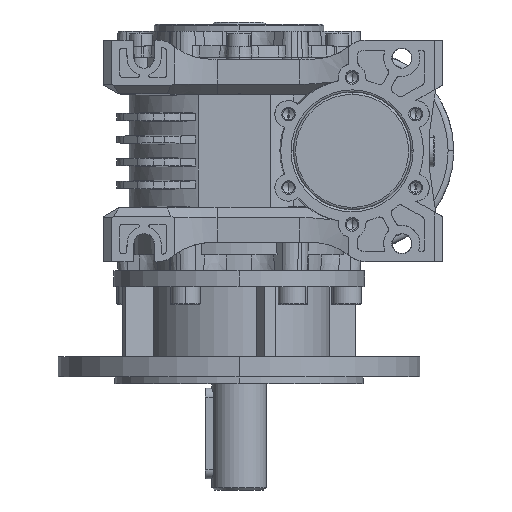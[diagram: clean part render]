
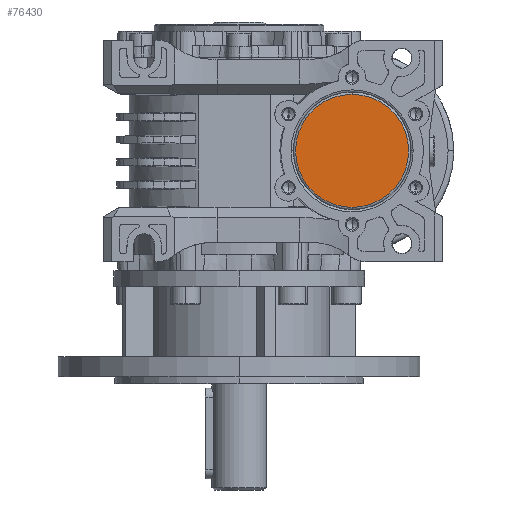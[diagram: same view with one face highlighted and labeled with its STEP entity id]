
A CAD part, left-side view. The second image highlights one B-rep face of the part: STEP entity #76430.
In plain terms, the highlighted planar face has unit normal (-1, 0, 0).
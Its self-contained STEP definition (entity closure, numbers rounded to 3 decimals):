
#6297 = EDGE_CURVE ( 'NONE', #95829, #57350, #74058, .T. ) ;
#14516 = DIRECTION ( 'NONE',  ( 1., 0., 0. ) ) ;
#27906 = DIRECTION ( 'NONE',  ( -1., 0., 0. ) ) ;
#34133 = AXIS2_PLACEMENT_3D ( 'NONE', #92788, #14516, #42087 ) ;
#35983 = DIRECTION ( 'NONE',  ( 0., 0., 1. ) ) ;
#42087 = DIRECTION ( 'NONE',  ( 0., 0., -1. ) ) ;
#44327 = CIRCLE ( 'NONE', #108627, 25. ) ;
#44908 = EDGE_CURVE ( 'NONE', #57350, #95829, #44327, .T. ) ;
#49593 = PLANE ( 'NONE',  #34133 ) ;
#57350 = VERTEX_POINT ( 'NONE', #70544 ) ;
#66694 = ORIENTED_EDGE ( 'NONE', *, *, #44908, .T. ) ;
#66861 = FACE_OUTER_BOUND ( 'NONE', #70373, .T. ) ;
#70373 = EDGE_LOOP ( 'NONE', ( #66694, #76577 ) ) ;
#70544 = CARTESIAN_POINT ( 'NONE',  ( -60., -50., 25. ) ) ;
#72018 = DIRECTION ( 'NONE',  ( -1., 0., 0. ) ) ;
#73164 = CARTESIAN_POINT ( 'NONE',  ( -60., -50., 0. ) ) ;
#74058 = CIRCLE ( 'NONE', #105229, 25. ) ;
#76430 = ADVANCED_FACE ( 'NONE', ( #66861 ), #49593, .F. ) ;
#76577 = ORIENTED_EDGE ( 'NONE', *, *, #6297, .T. ) ;
#87211 = CARTESIAN_POINT ( 'NONE',  ( -60., -50., 0. ) ) ;
#88479 = CARTESIAN_POINT ( 'NONE',  ( -60., -50., -25. ) ) ;
#92788 = CARTESIAN_POINT ( 'NONE',  ( -60., -50., 0. ) ) ;
#95829 = VERTEX_POINT ( 'NONE', #88479 ) ;
#105229 = AXIS2_PLACEMENT_3D ( 'NONE', #73164, #72018, #107126 ) ;
#107126 = DIRECTION ( 'NONE',  ( 0., 0., 1. ) ) ;
#108627 = AXIS2_PLACEMENT_3D ( 'NONE', #87211, #27906, #35983 ) ;
